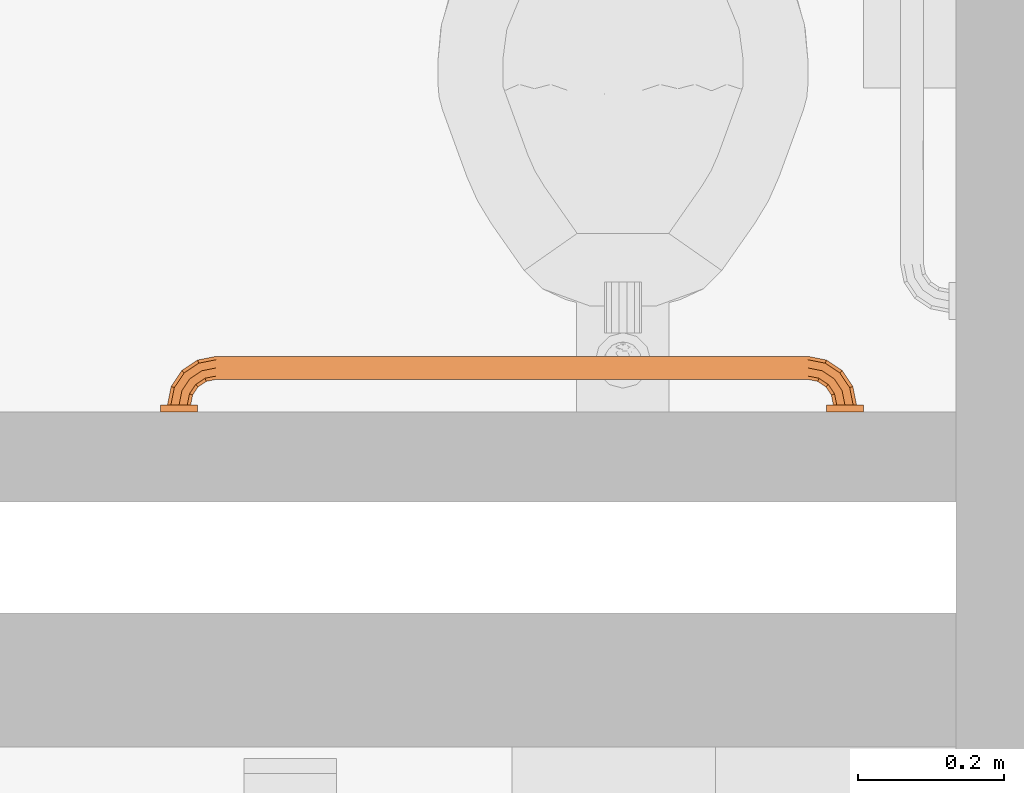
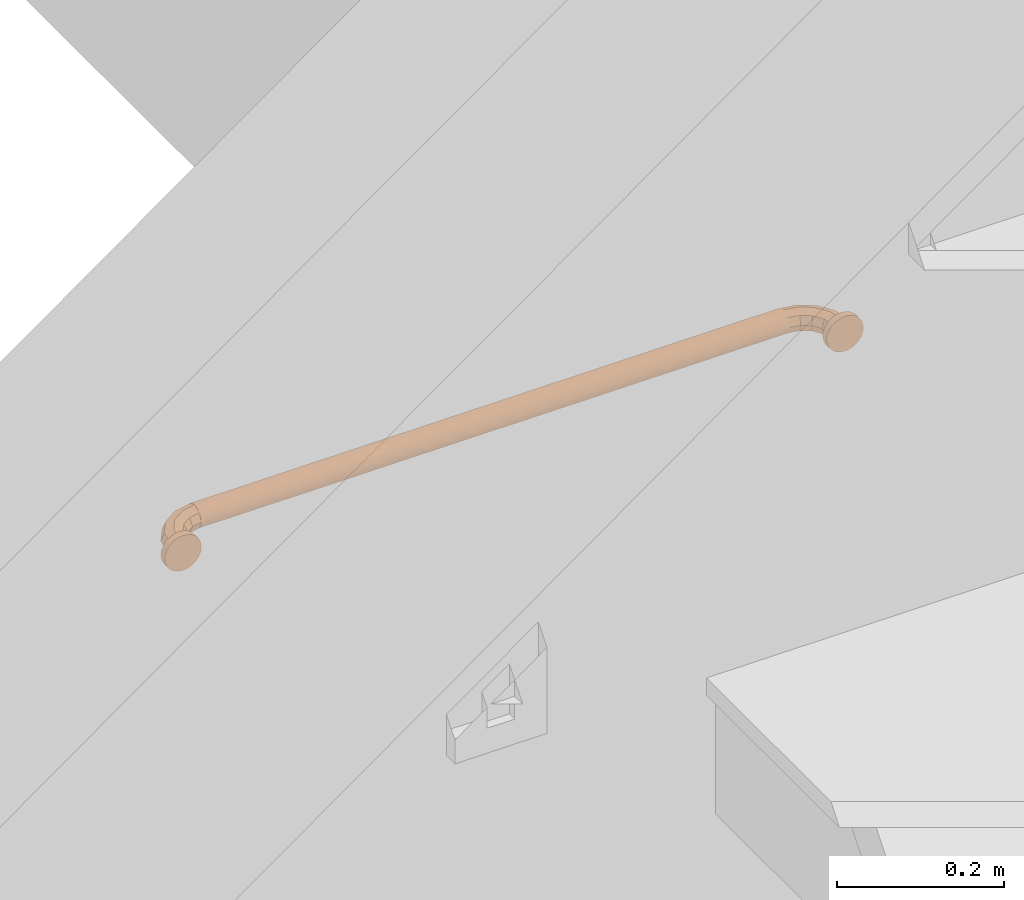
# One storey, part 113 of 142: 1 proxy.
"""IFC2X3 building model written with IfcOpenShell, lengths in feet."""

from ifc_helpers import new_model, entity, si_unit, converted_unit, derived_unit, direction, frame, origin, place, context, subcontext, project, spatial, faceted_brep, source, transform, mapped, type_object, type_shapes, element, save


model = new_model("IFC2X3")

# Units and contexts
model_context = context("Model", 3, precision=0.0001, world=origin(), true_north=direction((6.12303176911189e-17, 1.0)))
body_context = subcontext(model_context, "Body", "Model", "MODEL_VIEW")
ifc_project = project(units=[converted_unit("LENGTHUNIT", "FOOT", entity("IfcRatioMeasure", 0.3048), si_unit("LENGTHUNIT", "METRE"), dimensions=[1, 0, 0, 0, 0, 0, 0]), converted_unit("AREAUNIT", "SQUARE FOOT", entity("IfcRatioMeasure", 0.09290304), si_unit("AREAUNIT", "SQUARE_METRE"), dimensions=[2, 0, 0, 0, 0, 0, 0]), converted_unit("VOLUMEUNIT", "CUBIC FOOT", entity("IfcRatioMeasure", 0.028316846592), si_unit("VOLUMEUNIT", "CUBIC_METRE"), dimensions=[3, 0, 0, 0, 0, 0, 0]), converted_unit("PLANEANGLEUNIT", "DEGREE", entity("IfcRatioMeasure", 0.0174532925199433), si_unit("PLANEANGLEUNIT", "RADIAN"), dimensions=[0, 0, 0, 0, 0, 0, 0]), si_unit("MASSUNIT", "GRAM", prefix="KILO"), derived_unit("MASSDENSITYUNIT", [(si_unit("MASSUNIT", "GRAM", prefix="KILO"), 1), (si_unit("LENGTHUNIT", "METRE"), -3)]), si_unit("TIMEUNIT", "SECOND"), si_unit("FREQUENCYUNIT", "HERTZ"), si_unit("THERMODYNAMICTEMPERATUREUNIT", "DEGREE_CELSIUS"), derived_unit("THERMALTRANSMITTANCEUNIT", [(si_unit("MASSUNIT", "GRAM", prefix="KILO"), 1), (si_unit("THERMODYNAMICTEMPERATUREUNIT", "KELVIN"), -1), (si_unit("TIMEUNIT", "SECOND"), -3)]), derived_unit("VOLUMETRICFLOWRATEUNIT", [(si_unit("LENGTHUNIT", "METRE"), 3), (si_unit("TIMEUNIT", "SECOND"), -1)]), si_unit("ELECTRICCURRENTUNIT", "AMPERE"), si_unit("ELECTRICVOLTAGEUNIT", "VOLT"), si_unit("POWERUNIT", "WATT"), si_unit("FORCEUNIT", "NEWTON"), si_unit("ILLUMINANCEUNIT", "LUX"), si_unit("LUMINOUSFLUXUNIT", "LUMEN"), si_unit("LUMINOUSINTENSITYUNIT", "CANDELA"), derived_unit("USERDEFINED", [(si_unit("MASSUNIT", "GRAM", prefix="KILO"), -1), (si_unit("LENGTHUNIT", "METRE"), -2), (si_unit("TIMEUNIT", "SECOND"), 3), (si_unit("LUMINOUSFLUXUNIT", "LUMEN"), 1)]), derived_unit("LINEARVELOCITYUNIT", [(si_unit("LENGTHUNIT", "METRE"), 1), (si_unit("TIMEUNIT", "SECOND"), -1)]), si_unit("PRESSUREUNIT", "PASCAL"), derived_unit("USERDEFINED", [(si_unit("LENGTHUNIT", "METRE"), -2), (si_unit("MASSUNIT", "GRAM", prefix="KILO"), 1), (si_unit("TIMEUNIT", "SECOND"), -2)])], contexts=[model_context])

# Site, building, storey, space
site_placement = place(None, origin())
site = spatial("IfcSite", under=ifc_project, at=site_placement, Name="Default", CompositionType="ELEMENT")
building_placement = place(site_placement, origin())
building = spatial("IfcBuilding", under=site, at=building_placement, Name="OUTPATIENT / PACT CLINIC (Ch. 265)", CompositionType="ELEMENT")
storey_placement = place(building_placement, origin())
storey = spatial("IfcBuildingStorey", under=building, at=storey_placement, Name="LEVEL 1", CompositionType="ELEMENT", Elevation=0.0)
space_placement = place(storey_placement, origin())
space = spatial("IfcSpace", under=storey, at=space_placement, Name="TPG01", CompositionType="ELEMENT", InteriorOrExteriorSpace="INTERNAL")

# Proxy
building_element_proxy_type = type_object("IfcBuildingElementProxyType", Name="A5109 - Grab Bar, 1.25 in Dia, SS, 2 Wall, W-C Accessible_Improved", PredefinedType="NOTDEFINED")
shared_shape = source(origin(), body_context, "Body", "Brep", [
    faceted_brep([(0.987313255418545, 0.0950305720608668, 0.0520833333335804), (0.953288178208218, 0.0809369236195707, 0.0368284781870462), (0.963171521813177, 0.031249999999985, 0.0368284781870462), (1.0, 0.0312499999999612, 0.0520833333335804), (0.939194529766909, 0.0750991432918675, 0.0), (0.947916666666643, 0.0312499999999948, 0.0), (0.953288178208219, 0.0809369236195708, -0.0368284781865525), (0.963171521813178, 0.031249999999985, -0.0368284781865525), (0.987313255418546, 0.0950305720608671, -0.0520833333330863), (1.0, 0.0312499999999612, -0.0520833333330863), (1.02133833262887, 0.109124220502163, -0.036828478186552), (1.03682847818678, 0.0312499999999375, -0.036828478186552), (1.03543198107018, 0.114962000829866, 0.0), (1.05208333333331, 0.0312499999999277, 0.0), (1.02133833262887, 0.109124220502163, 0.0368284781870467), (1.03682847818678, 0.0312499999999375, 0.0368284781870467), (0.951184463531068, 0.149101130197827, 0.0520833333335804), (0.925142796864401, 0.12305946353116, 0.0368284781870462), (0.914355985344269, 0.112272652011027, 0.0), (0.925142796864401, 0.12305946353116, -0.0368284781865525), (0.951184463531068, 0.149101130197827, -0.0520833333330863), (0.977226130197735, 0.175142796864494, -0.036828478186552), (0.988012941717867, 0.185929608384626, 0.0), (0.977226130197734, 0.175142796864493, 0.0368284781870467), (0.897113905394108, 0.185229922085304, 0.0520833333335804), (0.883020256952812, 0.151204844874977, 0.0368284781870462), (0.877182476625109, 0.137111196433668, 0.0), (0.883020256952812, 0.151204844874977, -0.0368284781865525), (0.897113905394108, 0.185229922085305, -0.0520833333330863), (0.911207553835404, 0.219254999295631, -0.036828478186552), (0.917045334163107, 0.23334864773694, 0.0), (0.911207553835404, 0.219254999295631, 0.0368284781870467), (0.833333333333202, 0.197916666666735, 0.0520833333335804), (0.833333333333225, 0.161088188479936, 0.0368284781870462), (0.833333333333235, 0.145833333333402, 0.0), (0.833333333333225, 0.161088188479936, -0.0368284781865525), (0.833333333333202, 0.197916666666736, -0.0520833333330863), (0.833333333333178, 0.234745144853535, -0.036828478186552), (0.833333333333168, 0.250000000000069, 0.0), (0.833333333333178, 0.234745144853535, 0.0368284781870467)], [[[0, 1, 2, 3]], [[1, 4, 5, 2]], [[4, 6, 7, 5]], [[6, 8, 9, 7]], [[8, 10, 11, 9]], [[10, 12, 13, 11]], [[12, 14, 15, 13]], [[14, 0, 3, 15]], [[16, 17, 1, 0]], [[17, 18, 4, 1]], [[18, 19, 6, 4]], [[19, 20, 8, 6]], [[20, 21, 10, 8]], [[21, 22, 12, 10]], [[22, 23, 14, 12]], [[23, 16, 0, 14]], [[24, 25, 17, 16]], [[25, 26, 18, 17]], [[26, 27, 19, 18]], [[27, 28, 20, 19]], [[28, 29, 21, 20]], [[29, 30, 22, 21]], [[30, 31, 23, 22]], [[31, 24, 16, 23]], [[32, 33, 25, 24]], [[33, 34, 26, 25]], [[34, 35, 27, 26]], [[35, 36, 28, 27]], [[36, 37, 29, 28]], [[37, 38, 30, 29]], [[38, 39, 31, 30]], [[39, 32, 24, 31]], [[3, 2, 5, 7, 9, 11, 13, 15]], [[39, 38, 37, 36, 35, 34, 33, 32]]]),
    faceted_brep([(0.958333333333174, 0.0312499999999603, -0.0721687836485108), (0.941074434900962, 0.0312499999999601, -0.0589255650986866), (0.927831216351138, 0.0312499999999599, -0.0416666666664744), (0.919506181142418, 0.0312499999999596, -0.0215682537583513), (0.916666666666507, 0.0312499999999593, 0.0), (0.919506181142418, 0.031249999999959, 0.021568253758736), (0.927831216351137, 0.0312499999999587, 0.0416666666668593), (0.941074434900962, 0.0312499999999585, 0.0589255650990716), (0.958333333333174, 0.0312499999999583, 0.0721687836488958), (0.978431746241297, 0.0312499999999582, 0.080493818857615), (1.0, 0.0312499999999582, 0.083333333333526), (1.02156825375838, 0.0312499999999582, 0.080493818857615), (1.04166666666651, 0.0312499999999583, 0.0721687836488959), (1.05892556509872, 0.0312499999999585, 0.0589255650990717), (1.07216878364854, 0.0312499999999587, 0.0416666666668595), (1.08049381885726, 0.031249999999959, 0.0215682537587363), (1.08333333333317, 0.0312499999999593, 0.0), (1.08049381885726, 0.0312499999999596, -0.0215682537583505), (1.07216878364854, 0.0312499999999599, -0.0416666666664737), (1.05892556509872, 0.0312499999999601, -0.0589255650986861), (1.04166666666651, 0.0312499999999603, -0.0721687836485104), (1.02156825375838, 0.0312499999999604, -0.0804938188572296), (1.0, 0.0312499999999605, -0.0833333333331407), (0.978431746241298, 0.0312499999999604, -0.0804938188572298), (0.978431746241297, 0.0, 0.0804938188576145), (0.958333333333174, 0.0, 0.0721687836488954), (0.941074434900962, 0.0, 0.0589255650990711), (0.927831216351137, 0.0, 0.0416666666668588), (0.919506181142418, 0.0, 0.0215682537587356), (0.916666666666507, 0.0, 0.0), (0.919506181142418, 0.0, -0.0215682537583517), (0.927831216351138, 0.0, -0.0416666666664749), (0.941074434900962, 0.0, -0.0589255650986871), (0.958333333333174, 0.0, -0.0721687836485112), (0.978431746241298, 0.0, -0.0804938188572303), (1.0, 0.0, -0.0833333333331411), (1.02156825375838, 0.0, -0.0804938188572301), (1.04166666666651, 0.0, -0.0721687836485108), (1.05892556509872, 0.0, -0.0589255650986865), (1.07216878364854, 0.0, -0.0416666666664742), (1.08049381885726, 0.0, -0.0215682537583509), (1.08333333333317, 0.0, 0.0), (1.08049381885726, 0.0, 0.0215682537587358), (1.07216878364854, 0.0, 0.0416666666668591), (1.05892556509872, 0.0, 0.0589255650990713), (1.04166666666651, 0.0, 0.0721687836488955), (1.02156825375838, 0.0, 0.0804938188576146), (1.0, 0.0, 0.0833333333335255)], [[[0, 1, 2, 3, 4, 5, 6, 7, 8, 9, 10, 11, 12, 13, 14, 15, 16, 17, 18, 19, 20, 21, 22, 23]], [[24, 25, 26, 27, 28, 29, 30, 31, 32, 33, 34, 35, 36, 37, 38, 39, 40, 41, 42, 43, 44, 45, 46, 47]], [[40, 17, 16, 41]], [[39, 18, 17, 40]], [[20, 19, 38, 37]], [[39, 38, 19, 18]], [[21, 20, 37, 36]], [[22, 21, 36, 35]], [[34, 23, 22, 35]], [[33, 0, 23, 34]], [[2, 1, 32, 31]], [[33, 32, 1, 0]], [[3, 2, 31, 30]], [[4, 3, 30, 29]], [[28, 5, 4, 29]], [[27, 6, 5, 28]], [[8, 7, 26, 25]], [[27, 26, 7, 6]], [[9, 8, 25, 24]], [[10, 9, 24, 47]], [[46, 11, 10, 47]], [[45, 12, 11, 46]], [[14, 13, 44, 43]], [[45, 44, 13, 12]], [[15, 14, 43, 42]], [[16, 15, 42, 41]]]),
    faceted_brep([(-1.89711390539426, 0.185229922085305, 0.052083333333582), (-1.88302025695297, 0.151204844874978, 0.0368284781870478), (-1.83333333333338, 0.161088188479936, 0.0368284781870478), (-1.83333333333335, 0.197916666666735, 0.052083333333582), (-1.87718247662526, 0.137111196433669, 0.0), (-1.83333333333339, 0.145833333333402, 0.0), (-1.88302025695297, 0.151204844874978, -0.0368284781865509), (-1.83333333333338, 0.161088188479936, -0.0368284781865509), (-1.89711390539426, 0.185229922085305, -0.0520833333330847), (-1.83333333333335, 0.197916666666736, -0.0520833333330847), (-1.91120755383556, 0.219254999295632, -0.0368284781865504), (-1.83333333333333, 0.234745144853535, -0.0368284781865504), (-1.91704533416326, 0.233348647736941, 0.0), (-1.83333333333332, 0.250000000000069, 0.0), (-1.91120755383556, 0.219254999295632, 0.0368284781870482), (-1.83333333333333, 0.234745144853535, 0.0368284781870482), (-1.95118446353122, 0.149101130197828, 0.052083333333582), (-1.92514279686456, 0.123059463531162, 0.0368284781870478), (-1.91435598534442, 0.112272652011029, 0.0), (-1.92514279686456, 0.123059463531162, -0.0368284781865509), (-1.95118446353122, 0.149101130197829, -0.0520833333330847), (-1.97722613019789, 0.175142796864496, -0.0368284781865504), (-1.98801294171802, 0.185929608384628, 0.0), (-1.97722613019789, 0.175142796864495, 0.0368284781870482), (-1.9873132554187, 0.0950305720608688, 0.052083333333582), (-1.95328817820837, 0.0809369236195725, 0.0368284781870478), (-1.93919452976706, 0.0750991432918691, 0.0), (-1.95328817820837, 0.0809369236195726, -0.0368284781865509), (-1.9873132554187, 0.0950305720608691, -0.0520833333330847), (-2.02133833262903, 0.109124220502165, -0.0368284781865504), (-2.03543198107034, 0.114962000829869, 0.0), (-2.02133833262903, 0.109124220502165, 0.0368284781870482), (-2.0, 0.0312499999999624, 0.052083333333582), (-1.96317152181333, 0.0312499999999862, 0.0368284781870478), (-1.9479166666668, 0.0312499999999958, 0.0), (-1.96317152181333, 0.0312499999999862, -0.0368284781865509), (-2.0, 0.0312499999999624, -0.0520833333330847), (-2.03682847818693, 0.0312499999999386, -0.0368284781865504), (-2.05208333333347, 0.031249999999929, 0.0), (-2.03682847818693, 0.0312499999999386, 0.0368284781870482)], [[[0, 1, 2, 3]], [[1, 4, 5, 2]], [[4, 6, 7, 5]], [[6, 8, 9, 7]], [[8, 10, 11, 9]], [[10, 12, 13, 11]], [[12, 14, 15, 13]], [[14, 0, 3, 15]], [[16, 17, 1, 0]], [[17, 18, 4, 1]], [[18, 19, 6, 4]], [[19, 20, 8, 6]], [[20, 21, 10, 8]], [[21, 22, 12, 10]], [[22, 23, 14, 12]], [[23, 16, 0, 14]], [[24, 25, 17, 16]], [[25, 26, 18, 17]], [[26, 27, 19, 18]], [[27, 28, 20, 19]], [[28, 29, 21, 20]], [[29, 30, 22, 21]], [[30, 31, 23, 22]], [[31, 24, 16, 23]], [[32, 33, 25, 24]], [[33, 34, 26, 25]], [[34, 35, 27, 26]], [[35, 36, 28, 27]], [[36, 37, 29, 28]], [[37, 38, 30, 29]], [[38, 39, 31, 30]], [[39, 32, 24, 31]], [[3, 2, 5, 7, 9, 11, 13, 15]], [[39, 38, 37, 36, 35, 34, 33, 32]]]),
    faceted_brep([(-1.97843174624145, 0.0312499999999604, -0.0804938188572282), (-2.0, 0.0312499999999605, -0.0833333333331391), (-2.02156825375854, 0.0312499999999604, -0.080493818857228), (-2.04166666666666, 0.0312499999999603, -0.0721687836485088), (-2.05892556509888, 0.0312499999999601, -0.0589255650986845), (-2.0721687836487, 0.0312499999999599, -0.0416666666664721), (-2.08049381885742, 0.0312499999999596, -0.0215682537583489), (-2.08333333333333, 0.0312499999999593, 0.0), (-2.08049381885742, 0.031249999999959, 0.0215682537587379), (-2.0721687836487, 0.0312499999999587, 0.0416666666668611), (-2.05892556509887, 0.0312499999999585, 0.0589255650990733), (-2.04166666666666, 0.0312499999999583, 0.0721687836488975), (-2.02156825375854, 0.0312499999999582, 0.0804938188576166), (-2.0, 0.0312499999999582, 0.0833333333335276), (-1.97843174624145, 0.0312499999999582, 0.0804938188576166), (-1.95833333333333, 0.0312499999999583, 0.0721687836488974), (-1.94107443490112, 0.0312499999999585, 0.0589255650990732), (-1.92783121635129, 0.0312499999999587, 0.0416666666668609), (-1.91950618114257, 0.031249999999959, 0.0215682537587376), (-1.91666666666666, 0.0312499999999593, 0.0), (-1.91950618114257, 0.0312499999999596, -0.0215682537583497), (-1.92783121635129, 0.0312499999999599, -0.0416666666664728), (-1.94107443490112, 0.0312499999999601, -0.058925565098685), (-1.95833333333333, 0.0312499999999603, -0.0721687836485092), (-2.0, 0.0, 0.0833333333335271), (-2.02156825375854, 0.0, 0.0804938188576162), (-2.04166666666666, 0.0, 0.0721687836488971), (-2.05892556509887, 0.0, 0.0589255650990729), (-2.0721687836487, 0.0, 0.0416666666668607), (-2.08049381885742, 0.0, 0.0215682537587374), (-2.08333333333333, 0.0, 0.0), (-2.08049381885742, 0.0, -0.0215682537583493), (-2.0721687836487, 0.0, -0.0416666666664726), (-2.05892556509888, 0.0, -0.0589255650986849), (-2.04166666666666, 0.0, -0.0721687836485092), (-2.02156825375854, 0.0, -0.0804938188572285), (-2.0, 0.0, -0.0833333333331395), (-1.97843174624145, 0.0, -0.0804938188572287), (-1.95833333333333, 0.0, -0.0721687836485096), (-1.94107443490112, 0.0, -0.0589255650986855), (-1.92783121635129, 0.0, -0.0416666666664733), (-1.91950618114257, 0.0, -0.0215682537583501), (-1.91666666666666, 0.0, 0.0), (-1.91950618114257, 0.0, 0.0215682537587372), (-1.92783121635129, 0.0, 0.0416666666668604), (-1.94107443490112, 0.0, 0.0589255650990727), (-1.95833333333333, 0.0, 0.072168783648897), (-1.97843174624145, 0.0, 0.0804938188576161)], [[[0, 1, 2, 3, 4, 5, 6, 7, 8, 9, 10, 11, 12, 13, 14, 15, 16, 17, 18, 19, 20, 21, 22, 23]], [[24, 25, 26, 27, 28, 29, 30, 31, 32, 33, 34, 35, 36, 37, 38, 39, 40, 41, 42, 43, 44, 45, 46, 47]], [[30, 7, 6, 31]], [[31, 6, 5, 32]], [[34, 33, 4, 3]], [[4, 33, 32, 5]], [[35, 34, 3, 2]], [[35, 2, 1, 36]], [[36, 1, 0, 37]], [[37, 0, 23, 38]], [[40, 39, 22, 21]], [[22, 39, 38, 23]], [[41, 40, 21, 20]], [[41, 20, 19, 42]], [[42, 19, 18, 43]], [[43, 18, 17, 44]], [[46, 45, 16, 15]], [[16, 45, 44, 17]], [[47, 46, 15, 14]], [[47, 14, 13, 24]], [[24, 13, 12, 25]], [[25, 12, 11, 26]], [[28, 27, 10, 9]], [[10, 27, 26, 11]], [[29, 28, 9, 8]], [[29, 8, 7, 30]]]),
    faceted_brep([(0.833333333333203, 0.161088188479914, 0.0368284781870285), (0.833333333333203, 0.152811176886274, 0.0260416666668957), (0.833333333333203, 0.147608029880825, 0.0134801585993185), (0.833333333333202, 0.14583333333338, 0.0), (0.833333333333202, 0.147608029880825, -0.0134801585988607), (0.833333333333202, 0.152811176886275, -0.0260416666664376), (0.833333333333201, 0.161088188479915, -0.0368284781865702), (0.833333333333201, 0.171875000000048, -0.0451054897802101), (0.833333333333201, 0.184436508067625, -0.0503086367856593), (0.833333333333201, 0.197916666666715, -0.0520833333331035), (0.833333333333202, 0.211396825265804, -0.0503086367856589), (0.833333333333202, 0.223958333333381, -0.0451054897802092), (0.833333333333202, 0.234745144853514, -0.0368284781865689), (0.833333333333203, 0.243022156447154, -0.0260416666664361), (0.833333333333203, 0.248225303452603, -0.013480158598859), (0.833333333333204, 0.250000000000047, 0.0), (0.833333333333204, 0.248225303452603, 0.0134801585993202), (0.833333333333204, 0.243022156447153, 0.0260416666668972), (0.833333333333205, 0.234745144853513, 0.0368284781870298), (0.833333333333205, 0.22395833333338, 0.0451054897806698), (0.833333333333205, 0.211396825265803, 0.050308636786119), (0.833333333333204, 0.197916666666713, 0.0520833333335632), (0.833333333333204, 0.184436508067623, 0.0503086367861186), (0.833333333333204, 0.171875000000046, 0.0451054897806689), (-1.83333333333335, 0.250000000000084, 0.0), (-1.83333333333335, 0.24822530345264, -0.0134801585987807), (-1.83333333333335, 0.243022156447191, -0.0260416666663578), (-1.83333333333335, 0.234745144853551, -0.0368284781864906), (-1.83333333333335, 0.223958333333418, -0.0451054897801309), (-1.83333333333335, 0.211396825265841, -0.0503086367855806), (-1.83333333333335, 0.197916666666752, -0.0520833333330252), (-1.83333333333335, 0.184436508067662, -0.050308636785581), (-1.83333333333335, 0.171875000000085, -0.0451054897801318), (-1.83333333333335, 0.161088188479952, -0.0368284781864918), (-1.83333333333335, 0.152811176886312, -0.0260416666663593), (-1.83333333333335, 0.147608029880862, -0.0134801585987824), (-1.83333333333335, 0.145833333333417, 0.0), (-1.83333333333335, 0.147608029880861, 0.0134801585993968), (-1.83333333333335, 0.152811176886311, 0.026041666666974), (-1.83333333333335, 0.161088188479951, 0.0368284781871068), (-1.83333333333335, 0.171875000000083, 0.0451054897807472), (-1.83333333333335, 0.18443650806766, 0.0503086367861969), (-1.83333333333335, 0.19791666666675, 0.0520833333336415), (-1.83333333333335, 0.21139682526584, 0.0503086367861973), (-1.83333333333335, 0.223958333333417, 0.0451054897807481), (-1.83333333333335, 0.23474514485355, 0.036828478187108), (-1.83333333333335, 0.24302215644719, 0.0260416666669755), (-1.83333333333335, 0.248225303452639, 0.0134801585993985), (0.027611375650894, 0.177985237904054, 0.0481187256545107), (0.213018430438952, 0.166210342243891, 0.0413204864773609), (0.0276113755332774, 0.156596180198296, 0.0317063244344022), (0.223932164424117, 0.149797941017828, 0.0199314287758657), (0.213018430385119, 0.14979794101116, -0.0199314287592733), (-0.500000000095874, 0.149797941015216, -0.0199314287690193), (-1.2130184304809, 0.14979794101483, -0.0199314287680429), (-0.500000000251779, 0.154851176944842, -0.0292922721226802), (0.21301843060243, 0.166210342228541, -0.0413204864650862), (-0.38666469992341, 0.187504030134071, -0.0510318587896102), (0.273230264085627, 0.187922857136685, -0.0511155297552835), (0.0276113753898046, 0.177985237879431, -0.0481187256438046), (-0.49999999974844, 0.166210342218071, -0.0413204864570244), (-1.02761137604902, 0.156596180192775, -0.0317063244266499), (-1.21301843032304, 0.166210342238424, -0.0413204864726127), (0.027611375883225, 0.15659618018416, -0.0317063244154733), (-0.500000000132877, 0.146752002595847, -0.00973913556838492), (-1.02761137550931, 0.146278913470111, -0.00679823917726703), (-1.02761137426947, 0.177985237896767, -0.0481187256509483), (-0.499999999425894, 0.177964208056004, -0.0481100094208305), (-1.02761137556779, 0.156596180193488, 0.0317063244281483), (-0.00758943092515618, 0.197916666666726, -0.0520833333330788), (-1.27323026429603, 0.18792285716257, 0.0511155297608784), (-0.992385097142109, 0.197916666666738, 0.0520833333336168), (0.0276113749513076, 0.146278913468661, -0.00679823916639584), (0.200359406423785, 0.146278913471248, 0.00679823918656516), (-1.22393216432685, 0.149797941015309, 0.0199314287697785), (-0.500000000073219, 0.149797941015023, 0.0199314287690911), (-0.49999999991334, 0.154851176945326, 0.0292922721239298), (-1.20035940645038, 0.146278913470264, 0.00679823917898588), (-1.21301843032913, 0.166210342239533, 0.041320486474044), (-0.499999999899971, 0.166210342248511, 0.0413204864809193), (-1.02761137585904, 0.177985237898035, 0.0481187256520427), (-0.50000000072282, 0.145915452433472, 0.00292358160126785), (0.264201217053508, 0.188316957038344, 0.051191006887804), (-1.26420121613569, 0.188316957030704, -0.0511910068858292), (-0.613335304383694, 0.187504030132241, 0.0510318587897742), (-0.50000000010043, 0.177964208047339, 0.0481100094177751), (-0.920461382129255, 0.197916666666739, -0.052083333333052), (-0.079537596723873, 0.197916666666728, -0.0520833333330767), (-0.0795258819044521, 0.197916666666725, 0.05208333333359), (-0.920474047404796, 0.197916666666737, 0.0520833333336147), (-0.992408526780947, 0.19791666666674, -0.0520833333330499), (-0.00758275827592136, 0.197916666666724, 0.0520833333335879), (0.0276113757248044, 0.217848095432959, -0.0481187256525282), (0.213018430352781, 0.229622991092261, -0.0413204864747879), (0.0276113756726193, 0.239237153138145, -0.0317063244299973), (0.223932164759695, 0.24603539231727, -0.0199314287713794), (0.213018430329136, 0.246035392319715, 0.0199314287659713), (-0.500000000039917, 0.246035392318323, 0.0199314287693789), (-1.21301843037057, 0.246035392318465, 0.0199314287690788), (-0.50000000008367, 0.240982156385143, 0.0292922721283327), (0.213018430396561, 0.229622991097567, 0.0413204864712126), (-0.386664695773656, 0.208329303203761, 0.0510318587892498), (0.273230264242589, 0.207910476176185, 0.0511155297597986), (0.0276113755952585, 0.217848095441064, 0.0481187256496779), (-0.49999999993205, 0.229622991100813, 0.0413204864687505), (-1.02761137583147, 0.239237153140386, 0.0317063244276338), (-1.21301843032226, 0.229622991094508, 0.0413204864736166), (0.0276113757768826, 0.239237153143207, 0.0317063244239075), (-0.500000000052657, 0.249081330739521, 0.00973913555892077), (-1.02761137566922, 0.249554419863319, 0.00679823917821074), (-1.02761137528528, 0.217848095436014, 0.0481187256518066), (-0.499999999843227, 0.217869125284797, 0.0481100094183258), (-1.0276113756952, 0.239237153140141, -0.0317063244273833), (-1.27323026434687, 0.207910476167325, -0.0511155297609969), (0.0276113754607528, 0.249554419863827, 0.00679823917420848), (0.200359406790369, 0.249554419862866, -0.0067982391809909), (-1.22393216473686, 0.246035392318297, -0.0199314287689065), (-0.500000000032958, 0.246035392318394, -0.0199314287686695), (-0.499999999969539, 0.240982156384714, -0.0292922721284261), (-1.20035940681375, 0.249554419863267, -0.00679823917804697), (-1.21301843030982, 0.229622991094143, -0.0413204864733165), (-0.499999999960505, 0.229622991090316, -0.041320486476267), (-1.02761137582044, 0.217848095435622, -0.0481187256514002), (-0.500000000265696, 0.249917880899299, -0.00292358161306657), (0.264201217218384, 0.207516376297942, -0.0511910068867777), (-1.26420121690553, 0.207516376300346, 0.0511910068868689), (-0.613335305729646, 0.20832930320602, -0.0510318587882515), (-0.500000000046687, 0.217869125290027, -0.048110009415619)], [[[0, 1, 2, 3, 4, 5, 6, 7, 8, 9, 10, 11, 12, 13, 14, 15, 16, 17, 18, 19, 20, 21, 22, 23]], [[24, 25, 26, 27, 28, 29, 30, 31, 32, 33, 34, 35, 36, 37, 38, 39, 40, 41, 42, 43, 44, 45, 46, 47]], [[23, 48, 49]], [[1, 50, 51]], [[52, 53, 54, 55]], [[7, 6, 56]], [[35, 34, 54]], [[57, 58, 59]], [[59, 58, 8]], [[60, 61, 62]], [[60, 56, 63]], [[34, 61, 54]], [[54, 64, 65]], [[32, 31, 66]], [[65, 36, 35]], [[57, 67, 66]], [[32, 62, 33]], [[68, 39, 38]], [[58, 69, 9]], [[42, 70, 71]], [[59, 56, 60]], [[60, 62, 66]], [[63, 52, 55]], [[72, 3, 73]], [[52, 5, 4]], [[6, 5, 63]], [[4, 72, 52]], [[74, 75, 51, 76]], [[77, 74, 37]], [[39, 68, 78]], [[61, 60, 55]], [[7, 59, 8]], [[79, 80, 78]], [[79, 49, 48]], [[81, 77, 65]], [[53, 52, 64, 54]], [[40, 39, 78]], [[6, 63, 56]], [[23, 22, 48]], [[72, 4, 3]], [[2, 51, 73]], [[0, 50, 1]], [[61, 34, 33]], [[32, 66, 62]], [[50, 49, 79]], [[79, 78, 68]], [[82, 22, 21]], [[74, 76, 68]], [[49, 0, 23]], [[83, 31, 30]], [[37, 36, 77]], [[80, 41, 40]], [[73, 3, 2]], [[65, 77, 36]], [[50, 79, 76]], [[84, 85, 48]], [[80, 70, 41]], [[84, 70, 80]], [[59, 67, 57]], [[66, 31, 83]], [[80, 85, 84]], [[48, 22, 82]], [[38, 37, 74]], [[81, 73, 75]], [[81, 64, 72]], [[1, 51, 2]], [[35, 54, 65]], [[5, 52, 63]], [[7, 56, 59]], [[33, 62, 61]], [[0, 49, 50]], [[40, 78, 80]], [[38, 74, 68]], [[74, 77, 75]], [[51, 75, 73]], [[77, 81, 75]], [[81, 72, 73]], [[65, 64, 81]], [[72, 64, 52]], [[8, 58, 9]], [[69, 58, 57]], [[57, 86, 87, 69]], [[83, 86, 57]], [[67, 60, 66]], [[67, 59, 60]], [[63, 55, 60]], [[61, 55, 54]], [[68, 76, 79]], [[50, 76, 51]], [[41, 70, 42]], [[71, 70, 84]], [[84, 88, 89, 71]], [[82, 88, 84]], [[85, 79, 48]], [[85, 80, 79]], [[66, 83, 57]], [[83, 30, 90, 86]], [[48, 82, 84]], [[82, 21, 91, 88]], [[11, 92, 93]], [[13, 94, 95]], [[96, 97, 98, 99]], [[19, 18, 100]], [[47, 46, 98]], [[101, 102, 103]], [[103, 102, 20]], [[104, 105, 106]], [[104, 100, 107]], [[46, 105, 98]], [[98, 108, 109]], [[44, 43, 110]], [[109, 24, 47]], [[101, 111, 110]], [[44, 106, 45]], [[112, 27, 26]], [[102, 91, 21]], [[30, 113, 90]], [[103, 100, 104]], [[104, 106, 110]], [[107, 96, 99]], [[114, 15, 115]], [[96, 17, 16]], [[18, 17, 107]], [[16, 114, 96]], [[116, 117, 95, 118]], [[119, 116, 25]], [[27, 112, 120]], [[105, 104, 99]], [[19, 103, 20]], [[121, 122, 120]], [[121, 93, 92]], [[123, 119, 109]], [[97, 96, 108, 98]], [[28, 27, 120]], [[18, 107, 100]], [[11, 10, 92]], [[114, 16, 15]], [[14, 95, 115]], [[12, 94, 13]], [[105, 46, 45]], [[44, 110, 106]], [[94, 93, 121]], [[121, 120, 112]], [[124, 10, 9]], [[116, 118, 112]], [[93, 12, 11]], [[125, 43, 42]], [[25, 24, 119]], [[122, 29, 28]], [[115, 15, 14]], [[109, 119, 24]], [[94, 121, 118]], [[126, 127, 92]], [[122, 113, 29]], [[126, 113, 122]], [[103, 111, 101]], [[110, 43, 125]], [[122, 127, 126]], [[92, 10, 124]], [[26, 25, 116]], [[123, 115, 117]], [[123, 108, 114]], [[13, 95, 14]], [[47, 98, 109]], [[17, 96, 107]], [[19, 100, 103]], [[45, 106, 105]], [[12, 93, 94]], [[28, 120, 122]], [[26, 116, 112]], [[116, 119, 117]], [[95, 117, 115]], [[119, 123, 117]], [[123, 114, 115]], [[109, 108, 123]], [[114, 108, 96]], [[20, 102, 21]], [[91, 102, 101]], [[101, 89, 88, 91]], [[125, 89, 101]], [[111, 104, 110]], [[111, 103, 104]], [[107, 99, 104]], [[105, 99, 98]], [[112, 118, 121]], [[94, 118, 95]], [[29, 113, 30]], [[90, 113, 126]], [[126, 87, 86, 90]], [[124, 87, 126]], [[127, 121, 92]], [[127, 122, 121]], [[110, 125, 101]], [[125, 42, 71, 89]], [[92, 124, 126]], [[124, 9, 69, 87]]]),
])
type_shapes(building_element_proxy_type, [shared_shape])
proxy_placement = place(space_placement, frame((446.254977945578, -941.139239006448, 3.0)))
element("IfcBuildingElementProxy", 1, at=proxy_placement, inside=space, type_object=building_element_proxy_type, Name="A5109 - Grab Bar, 1.25 in Dia, SS, 2 Wall, W-C Accessible_Improved1:A5109 - Grab Bar, 1.25 in Dia, SS, 2 Wall, W-C Accessible_Improved", ObjectType="A5109 - Grab Bar, 1.25 in Dia, SS, 2 Wall, W-C Accessible_Improved", context=body_context, shape_type="MappedRepresentation", body=[
    mapped(shared_shape, transform((0.0, 0.0, 0.0), scale=1.0)),
])

save(model, "model.ifc")
